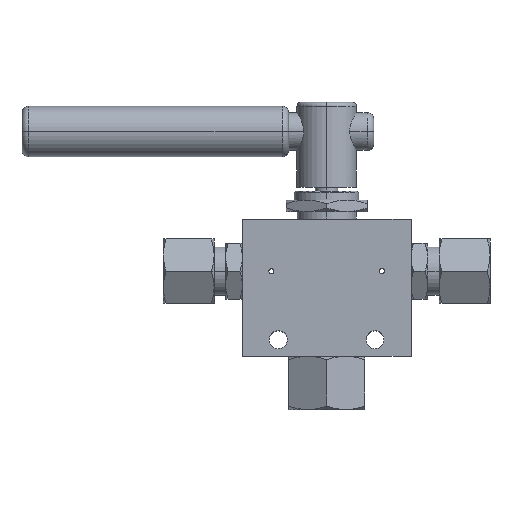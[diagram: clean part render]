
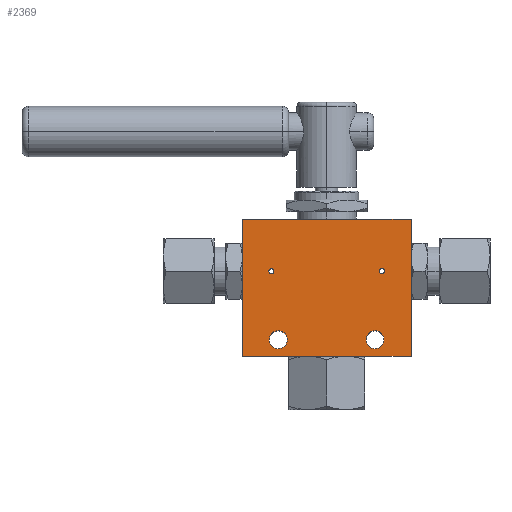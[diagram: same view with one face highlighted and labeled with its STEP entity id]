
A CAD part, top view. The second image highlights one B-rep face of the part: STEP entity #2369.
In plain terms, the highlighted planar face has unit normal (0, 0, 1).
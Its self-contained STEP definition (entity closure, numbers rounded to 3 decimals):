
#101 = AXIS2_PLACEMENT_3D ( 'NONE', #3875, #4250, #887 ) ;
#134 = CARTESIAN_POINT ( 'NONE',  ( -21.75, 6.5, 19. ) ) ;
#275 = ORIENTED_EDGE ( 'NONE', *, *, #3364, .F. ) ;
#331 = CARTESIAN_POINT ( 'NONE',  ( -19.05, -20.5, 19. ) ) ;
#419 = FACE_BOUND ( 'NONE', #2477, .T. ) ;
#472 = VECTOR ( 'NONE', #1758, 1000. ) ;
#488 = ORIENTED_EDGE ( 'NONE', *, *, #2213, .T. ) ;
#547 = ORIENTED_EDGE ( 'NONE', *, *, #2737, .F. ) ;
#599 = CARTESIAN_POINT ( 'NONE',  ( 21.75, 6.5, 19. ) ) ;
#706 = CIRCLE ( 'NONE', #3171, 1. ) ;
#753 = ORIENTED_EDGE ( 'NONE', *, *, #5470, .T. ) ;
#837 = CIRCLE ( 'NONE', #1355, 3.5 ) ;
#859 = EDGE_CURVE ( 'NONE', #1873, #1495, #4518, .T. ) ;
#887 = DIRECTION ( 'NONE',  ( 1., 0., 0. ) ) ;
#897 = PLANE ( 'NONE',  #2341 ) ;
#954 = DIRECTION ( 'NONE',  ( 0., 0., 1. ) ) ;
#966 = VERTEX_POINT ( 'NONE', #5690 ) ;
#972 = EDGE_CURVE ( 'NONE', #4023, #3434, #837, .T. ) ;
#1018 = CIRCLE ( 'NONE', #101, 3.5 ) ;
#1072 = DIRECTION ( 'NONE',  ( 0., 0., 1. ) ) ;
#1139 = LINE ( 'NONE', #3096, #2598 ) ;
#1167 = CARTESIAN_POINT ( 'NONE',  ( 15.55, -20.5, 19. ) ) ;
#1177 = CIRCLE ( 'NONE', #2917, 3.5 ) ;
#1215 = ORIENTED_EDGE ( 'NONE', *, *, #2179, .F. ) ;
#1254 = LINE ( 'NONE', #5153, #472 ) ;
#1273 = EDGE_CURVE ( 'NONE', #1730, #5053, #1177, .T. ) ;
#1284 = DIRECTION ( 'NONE',  ( 0., 1., 0. ) ) ;
#1347 = DIRECTION ( 'NONE',  ( 0., 0., -1. ) ) ;
#1355 = AXIS2_PLACEMENT_3D ( 'NONE', #331, #2282, #4713 ) ;
#1436 = FACE_BOUND ( 'NONE', #3459, .T. ) ;
#1441 = VERTEX_POINT ( 'NONE', #2447 ) ;
#1473 = CIRCLE ( 'NONE', #3117, 3.5 ) ;
#1495 = VERTEX_POINT ( 'NONE', #3420 ) ;
#1508 = ORIENTED_EDGE ( 'NONE', *, *, #972, .F. ) ;
#1560 = EDGE_LOOP ( 'NONE', ( #1215, #5251 ) ) ;
#1567 = VERTEX_POINT ( 'NONE', #2435 ) ;
#1576 = CARTESIAN_POINT ( 'NONE',  ( 19.05, -20.5, 19. ) ) ;
#1627 = LINE ( 'NONE', #4902, #6363 ) ;
#1677 = DIRECTION ( 'NONE',  ( 1., 0., 0. ) ) ;
#1730 = VERTEX_POINT ( 'NONE', #3501 ) ;
#1746 = EDGE_LOOP ( 'NONE', ( #4164, #547 ) ) ;
#1758 = DIRECTION ( 'NONE',  ( -1., 0., 0. ) ) ;
#1873 = VERTEX_POINT ( 'NONE', #4411 ) ;
#1923 = FACE_OUTER_BOUND ( 'NONE', #3230, .T. ) ;
#2179 = EDGE_CURVE ( 'NONE', #5053, #1730, #1473, .T. ) ;
#2213 = EDGE_CURVE ( 'NONE', #5123, #1441, #1139, .T. ) ;
#2278 = DIRECTION ( 'NONE',  ( 0., 0., 1. ) ) ;
#2282 = DIRECTION ( 'NONE',  ( 0., 0., 1. ) ) ;
#2334 = EDGE_CURVE ( 'NONE', #1567, #5123, #2552, .T. ) ;
#2341 = AXIS2_PLACEMENT_3D ( 'NONE', #2858, #1347, #5814 ) ;
#2369 = ADVANCED_FACE ( 'NONE', ( #1923, #1436, #3791, #419, #2397 ), #897, .F. ) ;
#2397 = FACE_BOUND ( 'NONE', #1560, .T. ) ;
#2435 = CARTESIAN_POINT ( 'NONE',  ( -33.25, 27., 19. ) ) ;
#2447 = CARTESIAN_POINT ( 'NONE',  ( 33.25, -27., 19. ) ) ;
#2477 = EDGE_LOOP ( 'NONE', ( #1508, #275 ) ) ;
#2552 = LINE ( 'NONE', #3528, #4146 ) ;
#2598 = VECTOR ( 'NONE', #2609, 1000. ) ;
#2609 = DIRECTION ( 'NONE',  ( 1., 0., 0. ) ) ;
#2734 = ORIENTED_EDGE ( 'NONE', *, *, #2334, .T. ) ;
#2737 = EDGE_CURVE ( 'NONE', #4557, #966, #706, .T. ) ;
#2858 = CARTESIAN_POINT ( 'NONE',  ( 0., 0., 19. ) ) ;
#2912 = DIRECTION ( 'NONE',  ( 1., 0., 0. ) ) ;
#2917 = AXIS2_PLACEMENT_3D ( 'NONE', #1576, #5103, #3162 ) ;
#2931 = ORIENTED_EDGE ( 'NONE', *, *, #3998, .F. ) ;
#2968 = CARTESIAN_POINT ( 'NONE',  ( -15.55, -20.5, 19. ) ) ;
#3096 = CARTESIAN_POINT ( 'NONE',  ( -33.25, -27., 19. ) ) ;
#3117 = AXIS2_PLACEMENT_3D ( 'NONE', #6031, #1072, #3132 ) ;
#3132 = DIRECTION ( 'NONE',  ( 1., 0., 0. ) ) ;
#3162 = DIRECTION ( 'NONE',  ( 1., 0., 0. ) ) ;
#3171 = AXIS2_PLACEMENT_3D ( 'NONE', #3310, #2278, #5758 ) ;
#3230 = EDGE_LOOP ( 'NONE', ( #753, #4441, #2734, #488 ) ) ;
#3252 = EDGE_CURVE ( 'NONE', #966, #4557, #5848, .T. ) ;
#3310 = CARTESIAN_POINT ( 'NONE',  ( 21.75, 6.5, 19. ) ) ;
#3364 = EDGE_CURVE ( 'NONE', #3434, #4023, #1018, .T. ) ;
#3397 = CARTESIAN_POINT ( 'NONE',  ( -21.75, 6.5, 19. ) ) ;
#3420 = CARTESIAN_POINT ( 'NONE',  ( -22.75, 6.5, 19. ) ) ;
#3434 = VERTEX_POINT ( 'NONE', #2968 ) ;
#3459 = EDGE_LOOP ( 'NONE', ( #2931, #5827 ) ) ;
#3501 = CARTESIAN_POINT ( 'NONE',  ( 22.55, -20.5, 19. ) ) ;
#3528 = CARTESIAN_POINT ( 'NONE',  ( -33.25, -27., 19. ) ) ;
#3766 = AXIS2_PLACEMENT_3D ( 'NONE', #3397, #954, #2912 ) ;
#3791 = FACE_BOUND ( 'NONE', #1746, .T. ) ;
#3875 = CARTESIAN_POINT ( 'NONE',  ( -19.05, -20.5, 19. ) ) ;
#3998 = EDGE_CURVE ( 'NONE', #1495, #1873, #4064, .T. ) ;
#4019 = CARTESIAN_POINT ( 'NONE',  ( -22.55, -20.5, 19. ) ) ;
#4023 = VERTEX_POINT ( 'NONE', #4019 ) ;
#4038 = DIRECTION ( 'NONE',  ( 0., -1., 0. ) ) ;
#4047 = DIRECTION ( 'NONE',  ( 0., 0., 1. ) ) ;
#4064 = CIRCLE ( 'NONE', #3766, 1. ) ;
#4146 = VECTOR ( 'NONE', #4038, 1000. ) ;
#4150 = CARTESIAN_POINT ( 'NONE',  ( -33.25, -27., 19. ) ) ;
#4164 = ORIENTED_EDGE ( 'NONE', *, *, #3252, .F. ) ;
#4221 = CARTESIAN_POINT ( 'NONE',  ( 33.25, 27., 19. ) ) ;
#4250 = DIRECTION ( 'NONE',  ( 0., 0., 1. ) ) ;
#4288 = EDGE_CURVE ( 'NONE', #6312, #1567, #1254, .T. ) ;
#4411 = CARTESIAN_POINT ( 'NONE',  ( -20.75, 6.5, 19. ) ) ;
#4441 = ORIENTED_EDGE ( 'NONE', *, *, #4288, .T. ) ;
#4518 = CIRCLE ( 'NONE', #5335, 1. ) ;
#4557 = VERTEX_POINT ( 'NONE', #5377 ) ;
#4607 = DIRECTION ( 'NONE',  ( 0., 0., 1. ) ) ;
#4608 = AXIS2_PLACEMENT_3D ( 'NONE', #599, #4607, #1677 ) ;
#4713 = DIRECTION ( 'NONE',  ( 1., 0., 0. ) ) ;
#4902 = CARTESIAN_POINT ( 'NONE',  ( 33.25, -27., 19. ) ) ;
#4936 = DIRECTION ( 'NONE',  ( 1., 0., 0. ) ) ;
#5053 = VERTEX_POINT ( 'NONE', #1167 ) ;
#5103 = DIRECTION ( 'NONE',  ( 0., 0., 1. ) ) ;
#5123 = VERTEX_POINT ( 'NONE', #4150 ) ;
#5153 = CARTESIAN_POINT ( 'NONE',  ( -33.25, 27., 19. ) ) ;
#5251 = ORIENTED_EDGE ( 'NONE', *, *, #1273, .F. ) ;
#5335 = AXIS2_PLACEMENT_3D ( 'NONE', #134, #4047, #4936 ) ;
#5377 = CARTESIAN_POINT ( 'NONE',  ( 22.75, 6.5, 19. ) ) ;
#5470 = EDGE_CURVE ( 'NONE', #1441, #6312, #1627, .T. ) ;
#5690 = CARTESIAN_POINT ( 'NONE',  ( 20.75, 6.5, 19. ) ) ;
#5758 = DIRECTION ( 'NONE',  ( 1., 0., 0. ) ) ;
#5814 = DIRECTION ( 'NONE',  ( -1., 0., 0. ) ) ;
#5827 = ORIENTED_EDGE ( 'NONE', *, *, #859, .F. ) ;
#5848 = CIRCLE ( 'NONE', #4608, 1. ) ;
#6031 = CARTESIAN_POINT ( 'NONE',  ( 19.05, -20.5, 19. ) ) ;
#6312 = VERTEX_POINT ( 'NONE', #4221 ) ;
#6363 = VECTOR ( 'NONE', #1284, 1000. ) ;
